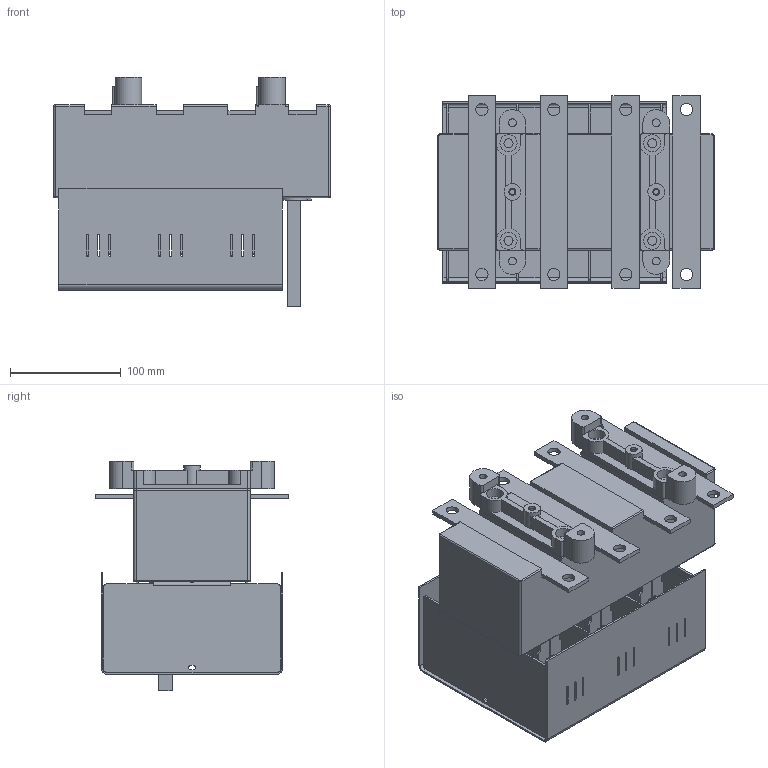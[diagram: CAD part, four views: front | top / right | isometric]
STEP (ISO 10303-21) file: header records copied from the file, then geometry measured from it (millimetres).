
FILE_DESCRIPTION(/* description */ (''),/* implementation_level */ '2;1');
FILE_NAME(/* name */ 'RAB 1 P3 N.stp',/* time_stamp */ '2021-08-19T12:09:05+02:00',/* author */ (''),/* organization */ (''),/* preprocessor_version */ 'ST-DEVELOPER v18.1',/* originating_system */ 'SIEMENS PLM Software NX 1965',/* authorisation */ '');
FILE_SCHEMA (('AUTOMOTIVE_DESIGN { 1 0 10303 214 3 1 1 1 }'));
Length unit declared in the file: millimetre
Products named in the file (1): RAB 1 P3 N_stp
Bounding box: 250 x 174 x 207.3 mm (x, y, z)
Volume: 2447723.1 mm3; surface area: 433356.8 mm2
Topology: 1 solids, 1 shells, 994 faces, 2758 edges, 1798 vertices
Faces by surface type: plane 652, cylinder 334, torus 5, bspline 3
Full cylindrical faces by diameter (mm): 4.8 x2, 6.2 x2, 7 x4, 8.2 x4, 11 x8, 14 x4, 15 x2, 15.5 x4
Entity records: 31809 total; most frequent: CARTESIAN_POINT 5600, ORIENTED_EDGE 5448, DIRECTION 5396, EDGE_CURVE 2724, LINE 2024, VECTOR 2024, VERTEX_POINT 1794, AXIS2_PLACEMENT_3D 1686
